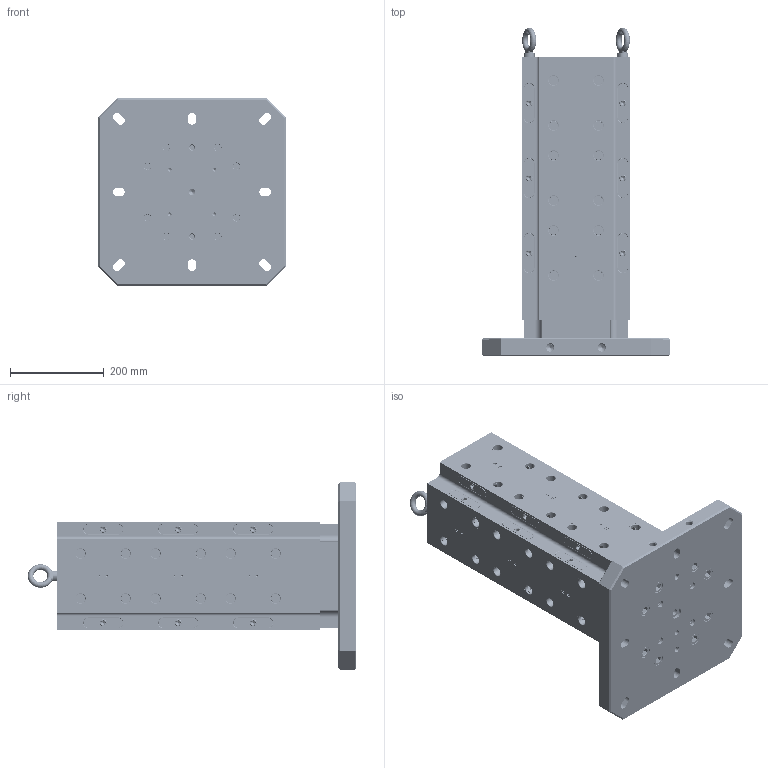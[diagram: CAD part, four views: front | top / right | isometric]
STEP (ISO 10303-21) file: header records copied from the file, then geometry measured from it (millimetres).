
FILE_DESCRIPTION (( 'STEP AP214' ), '1' );
FILE_NAME ('RL96S-4004U-638_WEBSITE.step', '2025-08-11T11:38:49', ( '' ), ( '' ), 'SwSTEP 2.0', 'SolidWorks 2025', '' );
FILE_SCHEMA (( 'AUTOMOTIVE_DESIGN' ));
Length unit declared in the file: millimetre
Products named in the file (14): RL96-4004-600S_WEBSITE_MACHINING; RL96-4004BUS_WEBSITE; RL96-2L_WEBSITE; HW27X20.DB_WEBSITE_PLATING; SB54_WEBSITE_FINISHED PART; RL96S-4004U-638_WEBSITE; M6X020.SHCS_WEBSITE_91290A319; RL96-3_WEBSITE_PLATING; RL96-4004-600S_WEBSITE; RL96-2R_WEBSITE_PLATING; RL96-14TC_WEBSITE; M12X24MM.EB (McM 3040T15)_WEBSITE_3040T15; M16X065.SHCS_WEBSITE_91290A835; M10x020.DP_WEBSITE_91595A640
Assembly tree (128 placements, depth 3):
  RL96S-4004U-638_WEBSITE
    RL96-4004-600S_WEBSITE
      RL96-4004BUS_WEBSITE
      RL96-4004-600S_WEBSITE_MACHINING
      M16X065.SHCS_WEBSITE_91290A835  x8
      M10x020.DP_WEBSITE_91595A640  x2
    RL96-14TC_WEBSITE
    M6X020.SHCS_WEBSITE_91290A319  x4
    M12X24MM.EB (McM 3040T15)_WEBSITE_3040T15  x2
    RL96-2R_WEBSITE_PLATING  x12
    RL96-2L_WEBSITE  x12
    RL96-3_WEBSITE_PLATING  x12
    HW27X20.DB_WEBSITE_PLATING  x48
    SB54_WEBSITE_FINISHED PART  x24
Bounding box: 400 x 700.82 x 400 mm (x, y, z)
Volume: 23692248.8 mm3; surface area: 2138173.3 mm2
Topology: 127 solids, 127 shells, 3883 faces, 8864 edges, 5583 vertices
Faces by surface type: plane 2306, cylinder 1140, cone 311, torus 122, sphere 4
Full cylindrical faces by diameter (mm): 2.642 x24, 3.3 x24, 4 x24, 4.7 x24, 5 x28, 5.182 x24, 6 x4, 6.6 x4, 8.204 x24, 8.5 x4, 9 x24, 9.525 x24, 10 x6, 10.025 x4, 10.2 x4, 10.795 x12, 11 x4, 11.938 x48, 12 x3, 12.573 x48, 14 x36, 15.748 x24, 16 x8, 16.015 x4, 17.5 x16, 19.05 x24, 19.101 x48, 20 x12, 20.015 x48, 20.035 x48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
Entity records: 47238 total; most frequent: CARTESIAN_POINT 12600, DIRECTION 7326, ORIENTED_EDGE 5532, AXIS2_PLACEMENT_3D 3116, EDGE_CURVE 2766, EDGE_LOOP 2516, VERTEX_POINT 2060, FACE_OUTER_BOUND 1975
